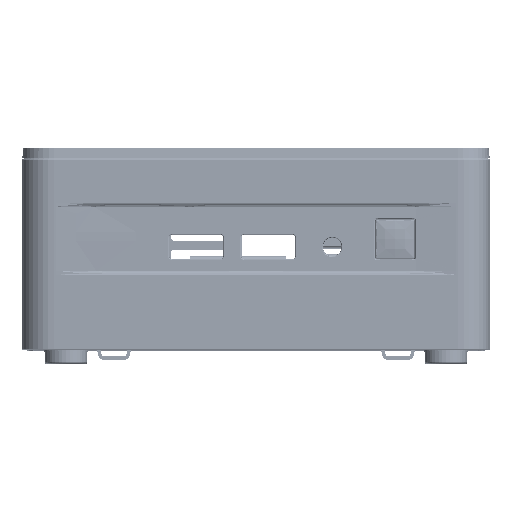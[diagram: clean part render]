
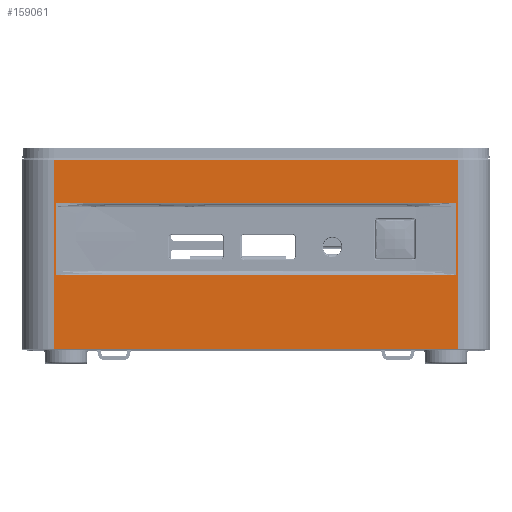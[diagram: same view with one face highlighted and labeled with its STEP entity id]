
A CAD part, top view. The second image highlights one B-rep face of the part: STEP entity #159061.
In plain terms, the highlighted planar face has unit normal (0, 0, 1).
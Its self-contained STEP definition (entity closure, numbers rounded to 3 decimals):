
#117837=DIRECTION('',(-1.,0.,0.));
#117838=VECTOR('',#117837,101.);
#117839=CARTESIAN_POINT('',(50.5,45.1,
56.));
#117840=LINE('',#117839,#117838);
#127282=DIRECTION('',(0.,1.,0.));
#127283=VECTOR('',#127282,47.425);
#127284=CARTESIAN_POINT('',(-50.5,-2.325,56.));
#127285=LINE('',#127284,#127283);
#127290=DIRECTION('',(1.,0.,0.));
#127291=VECTOR('',#127290,50.5);
#127292=CARTESIAN_POINT('',(-50.5,-2.325,56.));
#127293=LINE('',#127292,#127291);
#127298=DIRECTION('',(1.,0.,0.));
#127299=VECTOR('',#127298,50.5);
#127300=CARTESIAN_POINT('',(0.,-2.325,56.));
#127301=LINE('',#127300,#127299);
#127311=DIRECTION('',(0.,1.,0.));
#127312=VECTOR('',#127311,47.425);
#127313=CARTESIAN_POINT('',(50.5,-2.325,
56.));
#127314=LINE('',#127313,#127312);
#128680=DIRECTION('',(0.,1.,0.));
#128681=VECTOR('',#128680,16.);
#128682=CARTESIAN_POINT('',(-50.,17.32,56.));
#128683=LINE('',#128682,#128681);
#128714=DIRECTION('',(0.,-1.,0.));
#128715=VECTOR('',#128714,16.);
#128716=CARTESIAN_POINT('',(50.,33.32,56.));
#128717=LINE('',#128716,#128715);
#128902=DIRECTION('',(0.,1.,0.));
#128903=VECTOR('',#128902,1.);
#128904=CARTESIAN_POINT('',(-50.,33.32,56.));
#128905=LINE('',#128904,#128903);
#128906=DIRECTION('',(1.,0.,0.));
#128907=VECTOR('',#128906,100.);
#128908=CARTESIAN_POINT('',(-50.,34.32,56.));
#128909=LINE('',#128908,#128907);
#128910=DIRECTION('',(0.,-1.,0.));
#128911=VECTOR('',#128910,1.);
#128912=CARTESIAN_POINT('',(50.,34.32,56.));
#128913=LINE('',#128912,#128911);
#128914=DIRECTION('',(0.,-1.,0.));
#128915=VECTOR('',#128914,1.);
#128916=CARTESIAN_POINT('',(50.,17.32,56.));
#128917=LINE('',#128916,#128915);
#128918=DIRECTION('',(-1.,0.,0.));
#128919=VECTOR('',#128918,100.);
#128920=CARTESIAN_POINT('',(50.,16.32,56.));
#128921=LINE('',#128920,#128919);
#128922=DIRECTION('',(0.,1.,0.));
#128923=VECTOR('',#128922,1.);
#128924=CARTESIAN_POINT('',(-50.,16.32,56.));
#128925=LINE('',#128924,#128923);
#137767=CARTESIAN_POINT('',(-50.5,45.1,
56.));
#137768=VERTEX_POINT('',#137767);
#137769=CARTESIAN_POINT('',(50.5,45.1,
56.));
#137770=VERTEX_POINT('',#137769);
#140689=CARTESIAN_POINT('',(-50.5,-2.325,56.));
#140690=VERTEX_POINT('',#140689);
#140691=CARTESIAN_POINT('',(0.,-2.325,56.));
#140692=VERTEX_POINT('',#140691);
#140693=CARTESIAN_POINT('',(50.5,-2.325,
56.));
#140694=VERTEX_POINT('',#140693);
#140695=CARTESIAN_POINT('',(-50.,17.32,56.));
#140696=CARTESIAN_POINT('',(-50.,33.32,56.));
#140697=VERTEX_POINT('',#140695);
#140698=VERTEX_POINT('',#140696);
#140699=CARTESIAN_POINT('',(-50.,16.32,56.));
#140700=VERTEX_POINT('',#140699);
#140701=CARTESIAN_POINT('',(50.,16.32,56.));
#140702=VERTEX_POINT('',#140701);
#140703=CARTESIAN_POINT('',(50.,17.32,56.));
#140704=VERTEX_POINT('',#140703);
#140705=CARTESIAN_POINT('',(50.,33.32,56.));
#140706=VERTEX_POINT('',#140705);
#140707=CARTESIAN_POINT('',(50.,34.32,56.));
#140708=VERTEX_POINT('',#140707);
#140709=CARTESIAN_POINT('',(-50.,34.32,56.));
#140710=VERTEX_POINT('',#140709);
#159028=CARTESIAN_POINT('',(-58.5,-2.5,56.));
#159029=DIRECTION('',(0.,0.,1.));
#159030=DIRECTION('',(1.,0.,0.));
#159031=AXIS2_PLACEMENT_3D('',#159028,#159029,#159030);
#159032=PLANE('',#159031);
#159034=ORIENTED_EDGE('',*,*,#159033,.F.);
#159035=ORIENTED_EDGE('',*,*,#159023,.T.);
#159036=ORIENTED_EDGE('',*,*,#146161,.F.);
#159038=ORIENTED_EDGE('',*,*,#159037,.F.);
#159040=ORIENTED_EDGE('',*,*,#159039,.F.);
#159041=EDGE_LOOP('',(#159034,#159035,#159036,#159038,#159040));
#159042=FACE_OUTER_BOUND('',#159041,.F.);
#159044=ORIENTED_EDGE('',*,*,#159043,.F.);
#159046=ORIENTED_EDGE('',*,*,#159045,.F.);
#159048=ORIENTED_EDGE('',*,*,#159047,.F.);
#159050=ORIENTED_EDGE('',*,*,#159049,.F.);
#159052=ORIENTED_EDGE('',*,*,#159051,.F.);
#159054=ORIENTED_EDGE('',*,*,#159053,.F.);
#159056=ORIENTED_EDGE('',*,*,#159055,.F.);
#159058=ORIENTED_EDGE('',*,*,#159057,.F.);
#159059=EDGE_LOOP('',(#159044,#159046,#159048,#159050,#159052,#159054,#159056,
#159058));
#159060=FACE_BOUND('',#159059,.F.);
#159061=ADVANCED_FACE('',(#159042,#159060),#159032,.T.);
#146161=EDGE_CURVE('',#137770,#137768,#117840,.T.);
#159023=EDGE_CURVE('',#140690,#137768,#127285,.T.);
#159033=EDGE_CURVE('',#140690,#140692,#127293,.T.);
#159037=EDGE_CURVE('',#140694,#137770,#127314,.T.);
#159039=EDGE_CURVE('',#140692,#140694,#127301,.T.);
#159043=EDGE_CURVE('',#140697,#140698,#128683,.T.);
#159045=EDGE_CURVE('',#140700,#140697,#128925,.T.);
#159047=EDGE_CURVE('',#140702,#140700,#128921,.T.);
#159049=EDGE_CURVE('',#140704,#140702,#128917,.T.);
#159051=EDGE_CURVE('',#140706,#140704,#128717,.T.);
#159053=EDGE_CURVE('',#140708,#140706,#128913,.T.);
#159055=EDGE_CURVE('',#140710,#140708,#128909,.T.);
#159057=EDGE_CURVE('',#140698,#140710,#128905,.T.);
